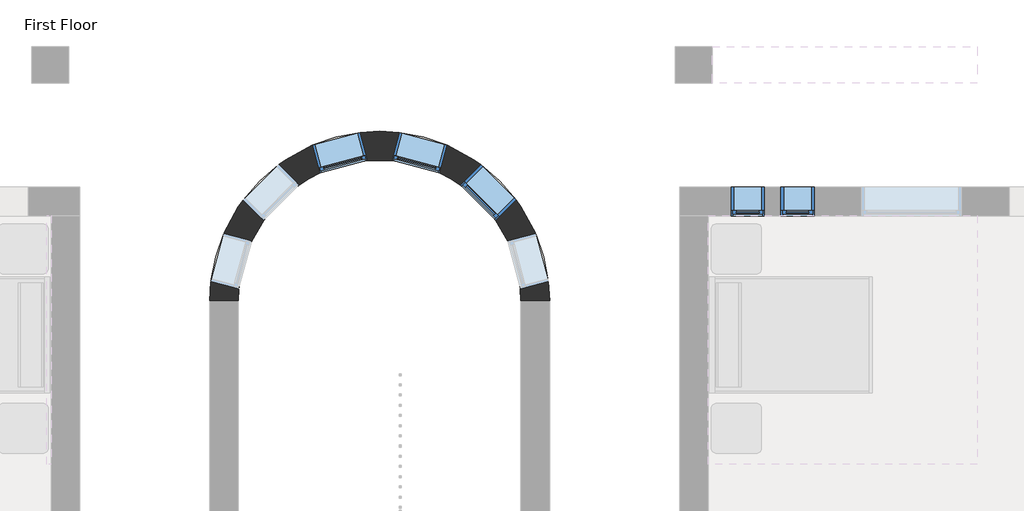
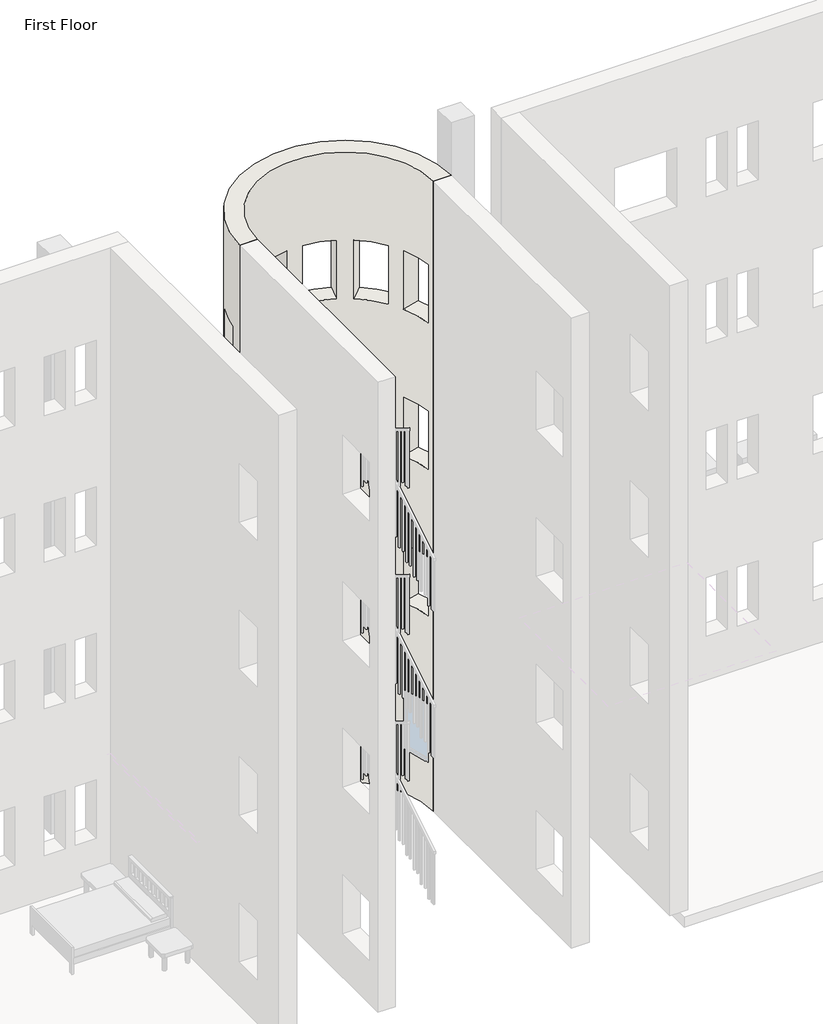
# One storey, part 15 of 23: 5 windows, 1 wall.
"""IFC4 building model written with IfcOpenShell, lengths in millimetres."""

from ifc_helpers import new_model, si_unit, frame, origin, place, context, project, spatial, polyline, circle_curve, transform, mapped, element, save
from ifc_brep_helpers import plane_surface, cylinder_surface, revolved_surface, advanced_brep
from components import m_fixed_0406_x_1220mm_57fee329, m_fixed_0610_x_1220mm_2c28ef1d, m_fixed_0610_x_1220mm_1ea27827

model = new_model("IFC4")

# Units and contexts
model_context = context("Model", 3, world=origin())
ifc_project = project(units=[si_unit("LENGTHUNIT", "METRE", prefix="MILLI")], contexts=[model_context])

# Site, building, storey
site = spatial("IfcSite", under=ifc_project)
building = spatial("IfcBuilding", under=site)
storey = spatial("IfcBuildingStorey", under=building, Name="First Floor", Elevation=0.0)

# Wall
placement = place(None, origin())
element("IfcWall", 1, ObjectType="Exterior - Brick on Mtl. Stud", at=placement, inside=storey, context=model_context, shape_type="AdvancedBrep", body=[
    advanced_brep(
    [(-16877.0916203, 1362.1188386, 13107.0), (-21037.0916203, 1362.1188386, 13107.0), (-20687.0916203, 1362.1188386, 13107.0), (-17227.0916203, 1362.1188386, 13107.0), (-21037.0916203, 1362.1188386, 0.0), (-16877.0916203, 1362.1188386, 0.0), (-17227.0916203, 1362.1188386, 0.0), (-20687.0916203, 1362.1188386, 0.0), (-20865.560337, 2189.250725, 915.0), (-20865.560337, 2189.250725, 2135.0), (-21023.4399545, 1600.035971, 2135.0), (-21023.4399545, 1600.035971, 915.0), (-19195.0087527, 3428.4671728, 915.0), (-19195.0087527, 3428.4671728, 2135.0), (-19784.2235068, 3270.5875553, 2135.0), (-19784.2235068, 3270.5875553, 915.0), (-20196.3080681, 3032.6704229, 915.0), (-20196.3080681, 3032.6704229, 2135.0), (-20627.6432046, 2601.3352863, 2135.0), (-20627.6432046, 2601.3352863, 915.0), (-17717.8751726, 3032.6704229, 2135.0), (-17717.8751726, 3032.6704229, 915.0), (-17286.5400361, 2601.3352863, 915.0), (-17286.5400361, 2601.3352863, 2135.0), (-18719.1744879, 3428.4671728, 2135.0), (-18719.1744879, 3428.4671728, 915.0), (-18129.9597339, 3270.5875553, 915.0), (-18129.9597339, 3270.5875553, 2135.0), (-17048.6229037, 2189.250725, 2135.0), (-17048.6229037, 2189.250725, 915.0), (-16890.7432862, 1600.035971, 915.0), (-16890.7432862, 1600.035971, 2135.0), (-17717.8751726, 3032.6704229, 11279.0), (-17717.8751726, 3032.6704229, 10059.0), (-17286.5400361, 2601.3352863, 10059.0), (-17286.5400361, 2601.3352863, 11279.0), (-18719.1744879, 3428.4671728, 11279.0), (-18719.1744879, 3428.4671728, 10059.0), (-18129.9597339, 3270.5875553, 10059.0), (-18129.9597339, 3270.5875553, 11279.0), (-17048.6229037, 2189.250725, 11279.0), (-17048.6229037, 2189.250725, 10059.0), (-16890.7432862, 1600.035971, 10059.0), (-16890.7432862, 1600.035971, 11279.0), (-20196.3080681, 3032.6704229, 10059.0), (-20196.3080681, 3032.6704229, 11279.0), (-20627.6432046, 2601.3352863, 11279.0), (-20627.6432046, 2601.3352863, 10059.0), (-19195.0087527, 3428.4671728, 10059.0), (-19195.0087527, 3428.4671728, 11279.0), (-19784.2235068, 3270.5875553, 11279.0), (-19784.2235068, 3270.5875553, 10059.0), (-20865.560337, 2189.250725, 10059.0), (-20865.560337, 2189.250725, 11279.0), (-21023.4399545, 1600.035971, 11279.0), (-21023.4399545, 1600.035971, 10059.0), (-17717.8751726, 3032.6704229, 5183.0), (-17717.8751726, 3032.6704229, 3963.0), (-17286.5400361, 2601.3352863, 3963.0), (-17286.5400361, 2601.3352863, 5183.0), (-18719.1744879, 3428.4671728, 5183.0), (-18719.1744879, 3428.4671728, 3963.0), (-18129.9597339, 3270.5875553, 3963.0), (-18129.9597339, 3270.5875553, 5183.0), (-17048.6229037, 2189.250725, 5183.0), (-17048.6229037, 2189.250725, 3963.0), (-16890.7432862, 1600.035971, 3963.0), (-16890.7432862, 1600.035971, 5183.0), (-20196.3080681, 3032.6704229, 3963.0), (-20196.3080681, 3032.6704229, 5183.0), (-20627.6432046, 2601.3352863, 5183.0), (-20627.6432046, 2601.3352863, 3963.0), (-19195.0087527, 3428.4671728, 3963.0), (-19195.0087527, 3428.4671728, 5183.0), (-19784.2235068, 3270.5875553, 5183.0), (-19784.2235068, 3270.5875553, 3963.0), (-20865.560337, 2189.250725, 3963.0), (-20865.560337, 2189.250725, 5183.0), (-21023.4399545, 1600.035971, 5183.0), (-21023.4399545, 1600.035971, 3963.0), (-17717.8751726, 3032.6704229, 8231.0), (-17717.8751726, 3032.6704229, 7011.0), (-17286.5400361, 2601.3352863, 7011.0), (-17286.5400361, 2601.3352863, 8231.0), (-18719.1744879, 3428.4671728, 8231.0), (-18719.1744879, 3428.4671728, 7011.0), (-18129.9597339, 3270.5875553, 7011.0), (-18129.9597339, 3270.5875553, 8231.0), (-17048.6229037, 2189.250725, 8231.0), (-17048.6229037, 2189.250725, 7011.0), (-16890.7432862, 1600.035971, 7011.0), (-16890.7432862, 1600.035971, 8231.0), (-20196.3080681, 3032.6704229, 7011.0), (-20196.3080681, 3032.6704229, 8231.0), (-20627.6432046, 2601.3352863, 8231.0), (-20627.6432046, 2601.3352863, 7011.0), (-19195.0087527, 3428.4671728, 7011.0), (-19195.0087527, 3428.4671728, 8231.0), (-19784.2235068, 3270.5875553, 8231.0), (-19784.2235068, 3270.5875553, 7011.0), (-20865.560337, 2189.250725, 7011.0), (-20865.560337, 2189.250725, 8231.0), (-21023.4399545, 1600.035971, 8231.0), (-21023.4399545, 1600.035971, 7011.0), (-20523.0287702, 2097.4696683, 915.0), (-20680.9083877, 1508.2549143, 915.0), (-20680.9083877, 1508.2549143, 2135.0), (-20523.0287702, 2097.4696683, 2135.0), (-19103.227696, 3085.935606, 2135.0), (-19103.227696, 3085.935606, 915.0), (-19692.44245, 2928.0559884, 915.0), (-19692.44245, 2928.0559884, 2135.0), (-19945.5575579, 2781.9199128, 2135.0), (-19945.5575579, 2781.9199128, 915.0), (-20376.8926945, 2350.5847762, 915.0), (-20376.8926945, 2350.5847762, 2135.0), (-17968.6256827, 2781.9199128, 915.0), (-17968.6256827, 2781.9199128, 2135.0), (-17537.2905462, 2350.5847762, 2135.0), (-17537.2905462, 2350.5847762, 915.0), (-18810.9555446, 3085.935606, 915.0), (-18810.9555446, 3085.935606, 2135.0), (-18221.7407906, 2928.0559884, 2135.0), (-18221.7407906, 2928.0559884, 915.0), (-17391.1544705, 2097.4696683, 915.0), (-17391.1544705, 2097.4696683, 2135.0), (-17233.274853, 1508.2549143, 2135.0), (-17233.274853, 1508.2549143, 915.0), (-17968.6256827, 2781.9199128, 10059.0), (-17968.6256827, 2781.9199128, 11279.0), (-17537.2905462, 2350.5847762, 11279.0), (-17537.2905462, 2350.5847762, 10059.0), (-18810.9555446, 3085.935606, 10059.0), (-18810.9555446, 3085.935606, 11279.0), (-18221.7407906, 2928.0559884, 11279.0), (-18221.7407906, 2928.0559884, 10059.0), (-17391.1544705, 2097.4696683, 10059.0), (-17391.1544705, 2097.4696683, 11279.0), (-17233.274853, 1508.2549143, 11279.0), (-17233.274853, 1508.2549143, 10059.0), (-19945.5575579, 2781.9199128, 11279.0), (-19945.5575579, 2781.9199128, 10059.0), (-20376.8926945, 2350.5847762, 10059.0), (-20376.8926945, 2350.5847762, 11279.0), (-19103.227696, 3085.935606, 11279.0), (-19103.227696, 3085.935606, 10059.0), (-19692.44245, 2928.0559884, 10059.0), (-19692.44245, 2928.0559884, 11279.0), (-20523.0287702, 2097.4696683, 11279.0), (-20523.0287702, 2097.4696683, 10059.0), (-20680.9083877, 1508.2549143, 10059.0), (-20680.9083877, 1508.2549143, 11279.0), (-17968.6256827, 2781.9199128, 3963.0), (-17968.6256827, 2781.9199128, 5183.0), (-17537.2905462, 2350.5847762, 5183.0), (-17537.2905462, 2350.5847762, 3963.0), (-18810.9555446, 3085.935606, 3963.0), (-18810.9555446, 3085.935606, 5183.0), (-18221.7407906, 2928.0559884, 5183.0), (-18221.7407906, 2928.0559884, 3963.0), (-17391.1544705, 2097.4696683, 3963.0), (-17391.1544705, 2097.4696683, 5183.0), (-17233.274853, 1508.2549143, 5183.0), (-17233.274853, 1508.2549143, 3963.0), (-19945.5575579, 2781.9199128, 5183.0), (-19945.5575579, 2781.9199128, 3963.0), (-20376.8926945, 2350.5847762, 3963.0), (-20376.8926945, 2350.5847762, 5183.0), (-19103.227696, 3085.935606, 5183.0), (-19103.227696, 3085.935606, 3963.0), (-19692.44245, 2928.0559884, 3963.0), (-19692.44245, 2928.0559884, 5183.0), (-20523.0287702, 2097.4696683, 5183.0), (-20523.0287702, 2097.4696683, 3963.0), (-20680.9083877, 1508.2549143, 3963.0), (-20680.9083877, 1508.2549143, 5183.0), (-17968.6256827, 2781.9199128, 7011.0), (-17968.6256827, 2781.9199128, 8231.0), (-17537.2905462, 2350.5847762, 8231.0), (-17537.2905462, 2350.5847762, 7011.0), (-18810.9555446, 3085.935606, 7011.0), (-18810.9555446, 3085.935606, 8231.0), (-18221.7407906, 2928.0559884, 8231.0), (-18221.7407906, 2928.0559884, 7011.0), (-17391.1544705, 2097.4696683, 7011.0), (-17391.1544705, 2097.4696683, 8231.0), (-17233.274853, 1508.2549143, 8231.0), (-17233.274853, 1508.2549143, 7011.0), (-19945.5575579, 2781.9199128, 8231.0), (-19945.5575579, 2781.9199128, 7011.0), (-20376.8926945, 2350.5847762, 7011.0), (-20376.8926945, 2350.5847762, 8231.0), (-19103.227696, 3085.935606, 8231.0), (-19103.227696, 3085.935606, 7011.0), (-19692.44245, 2928.0559884, 7011.0), (-19692.44245, 2928.0559884, 8231.0), (-20523.0287702, 2097.4696683, 8231.0), (-20523.0287702, 2097.4696683, 7011.0), (-20680.9083877, 1508.2549143, 7011.0), (-20680.9083877, 1508.2549143, 8231.0)],
    [
        (0, 1, circle_curve(frame((-18957.0916203, 1362.1188386, 13107.0), z_axis=(0.0, 0.0, 1.0), x_axis=(1.0, 0.0, 0.0)), 2080.0)),
        (1, 2),
        (2, 3, circle_curve(frame((-18957.0916203, 1362.1188386, 13107.0), z_axis=(0.0, 0.0, -1.0), x_axis=(1.0, 0.0, 0.0)), 1730.0)),
        (3, 0),
        (4, 5, circle_curve(frame((-18957.0916203, 1362.1188386, 0.0), z_axis=(0.0, 0.0, -1.0), x_axis=(1.0, 0.0, 0.0)), 2080.0)),
        (5, 6),
        (6, 7, circle_curve(frame((-18957.0916203, 1362.1188386, 0.0), z_axis=(0.0, 0.0, 1.0), x_axis=(1.0, 0.0, 0.0)), 1730.0)),
        (7, 4),
        (0, 5),
        (4, 1),
        (8, 9),
        (9, 10, circle_curve(frame((-18957.0916203, 1362.1188386, 2135.0), z_axis=(0.0, 0.0, 1.0), x_axis=(1.0, 0.0, 0.0)), 2080.0)),
        (10, 11),
        (11, 8, circle_curve(frame((-18957.0916203, 1362.1188386, 915.0), z_axis=(0.0, 0.0, -1.0), x_axis=(1.0, 0.0, 0.0)), 2080.0)),
        (12, 13),
        (13, 14, circle_curve(frame((-18957.0916203, 1362.1188386, 2135.0), z_axis=(0.0, 0.0, 1.0), x_axis=(1.0, 0.0, 0.0)), 2080.0)),
        (14, 15),
        (15, 12, circle_curve(frame((-18957.0916203, 1362.1188386, 915.0), z_axis=(0.0, 0.0, -1.0), x_axis=(1.0, 0.0, 0.0)), 2080.0)),
        (16, 17),
        (17, 18, circle_curve(frame((-18957.0916203, 1362.1188386, 2135.0), z_axis=(0.0, 0.0, 1.0), x_axis=(1.0, 0.0, 0.0)), 2080.0)),
        (18, 19),
        (19, 16, circle_curve(frame((-18957.0916203, 1362.1188386, 915.0), z_axis=(0.0, 0.0, -1.0), x_axis=(1.0, 0.0, 0.0)), 2080.0)),
        (20, 21),
        (21, 22, circle_curve(frame((-18957.0916203, 1362.1188386, 915.0), z_axis=(0.0, 0.0, -1.0), x_axis=(1.0, 0.0, 0.0)), 2080.0)),
        (22, 23),
        (23, 20, circle_curve(frame((-18957.0916203, 1362.1188386, 2135.0), z_axis=(0.0, 0.0, 1.0), x_axis=(1.0, 0.0, 0.0)), 2080.0)),
        (24, 25),
        (25, 26, circle_curve(frame((-18957.0916203, 1362.1188386, 915.0), z_axis=(0.0, 0.0, -1.0), x_axis=(1.0, 0.0, 0.0)), 2080.0)),
        (26, 27),
        (27, 24, circle_curve(frame((-18957.0916203, 1362.1188386, 2135.0), z_axis=(0.0, 0.0, 1.0), x_axis=(1.0, 0.0, 0.0)), 2080.0)),
        (28, 29),
        (29, 30, circle_curve(frame((-18957.0916203, 1362.1188386, 915.0), z_axis=(0.0, 0.0, -1.0), x_axis=(1.0, 0.0, 0.0)), 2080.0)),
        (30, 31),
        (31, 28, circle_curve(frame((-18957.0916203, 1362.1188386, 2135.0), z_axis=(0.0, 0.0, 1.0), x_axis=(1.0, 0.0, 0.0)), 2080.0)),
        (32, 33),
        (33, 34, circle_curve(frame((-18957.0916203, 1362.1188386, 10059.0), z_axis=(0.0, 0.0, -1.0), x_axis=(1.0, 0.0, 0.0)), 2080.0)),
        (34, 35),
        (35, 32, circle_curve(frame((-18957.0916203, 1362.1188386, 11279.0), z_axis=(0.0, 0.0, 1.0), x_axis=(1.0, 0.0, 0.0)), 2080.0)),
        (36, 37),
        (37, 38, circle_curve(frame((-18957.0916203, 1362.1188386, 10059.0), z_axis=(0.0, 0.0, -1.0), x_axis=(1.0, 0.0, 0.0)), 2080.0)),
        (38, 39),
        (39, 36, circle_curve(frame((-18957.0916203, 1362.1188386, 11279.0), z_axis=(0.0, 0.0, 1.0), x_axis=(1.0, 0.0, 0.0)), 2080.0)),
        (40, 41),
        (41, 42, circle_curve(frame((-18957.0916203, 1362.1188386, 10059.0), z_axis=(0.0, 0.0, -1.0), x_axis=(1.0, 0.0, 0.0)), 2080.0)),
        (42, 43),
        (43, 40, circle_curve(frame((-18957.0916203, 1362.1188386, 11279.0), z_axis=(0.0, 0.0, 1.0), x_axis=(1.0, 0.0, 0.0)), 2080.0)),
        (44, 45),
        (45, 46, circle_curve(frame((-18957.0916203, 1362.1188386, 11279.0), z_axis=(0.0, 0.0, 1.0), x_axis=(1.0, 0.0, 0.0)), 2080.0)),
        (46, 47),
        (47, 44, circle_curve(frame((-18957.0916203, 1362.1188386, 10059.0), z_axis=(0.0, 0.0, -1.0), x_axis=(1.0, 0.0, 0.0)), 2080.0)),
        (48, 49),
        (49, 50, circle_curve(frame((-18957.0916203, 1362.1188386, 11279.0), z_axis=(0.0, 0.0, 1.0), x_axis=(1.0, 0.0, 0.0)), 2080.0)),
        (50, 51),
        (51, 48, circle_curve(frame((-18957.0916203, 1362.1188386, 10059.0), z_axis=(0.0, 0.0, -1.0), x_axis=(1.0, 0.0, 0.0)), 2080.0)),
        (52, 53),
        (53, 54, circle_curve(frame((-18957.0916203, 1362.1188386, 11279.0), z_axis=(0.0, 0.0, 1.0), x_axis=(1.0, 0.0, 0.0)), 2080.0)),
        (54, 55),
        (55, 52, circle_curve(frame((-18957.0916203, 1362.1188386, 10059.0), z_axis=(0.0, 0.0, -1.0), x_axis=(1.0, 0.0, 0.0)), 2080.0)),
        (56, 57),
        (57, 58, circle_curve(frame((-18957.0916203, 1362.1188386, 3963.0), z_axis=(0.0, 0.0, -1.0), x_axis=(1.0, 0.0, 0.0)), 2080.0)),
        (58, 59),
        (59, 56, circle_curve(frame((-18957.0916203, 1362.1188386, 5183.0), z_axis=(0.0, 0.0, 1.0), x_axis=(1.0, 0.0, 0.0)), 2080.0)),
        (60, 61),
        (61, 62, circle_curve(frame((-18957.0916203, 1362.1188386, 3963.0), z_axis=(0.0, 0.0, -1.0), x_axis=(1.0, 0.0, 0.0)), 2080.0)),
        (62, 63),
        (63, 60, circle_curve(frame((-18957.0916203, 1362.1188386, 5183.0), z_axis=(0.0, 0.0, 1.0), x_axis=(1.0, 0.0, 0.0)), 2080.0)),
        (64, 65),
        (65, 66, circle_curve(frame((-18957.0916203, 1362.1188386, 3963.0), z_axis=(0.0, 0.0, -1.0), x_axis=(1.0, 0.0, 0.0)), 2080.0)),
        (66, 67),
        (67, 64, circle_curve(frame((-18957.0916203, 1362.1188386, 5183.0), z_axis=(0.0, 0.0, 1.0), x_axis=(1.0, 0.0, 0.0)), 2080.0)),
        (68, 69),
        (69, 70, circle_curve(frame((-18957.0916203, 1362.1188386, 5183.0), z_axis=(0.0, 0.0, 1.0), x_axis=(1.0, 0.0, 0.0)), 2080.0)),
        (70, 71),
        (71, 68, circle_curve(frame((-18957.0916203, 1362.1188386, 3963.0), z_axis=(0.0, 0.0, -1.0), x_axis=(1.0, 0.0, 0.0)), 2080.0)),
        (72, 73),
        (73, 74, circle_curve(frame((-18957.0916203, 1362.1188386, 5183.0), z_axis=(0.0, 0.0, 1.0), x_axis=(1.0, 0.0, 0.0)), 2080.0)),
        (74, 75),
        (75, 72, circle_curve(frame((-18957.0916203, 1362.1188386, 3963.0), z_axis=(0.0, 0.0, -1.0), x_axis=(1.0, 0.0, 0.0)), 2080.0)),
        (76, 77),
        (77, 78, circle_curve(frame((-18957.0916203, 1362.1188386, 5183.0), z_axis=(0.0, 0.0, 1.0), x_axis=(1.0, 0.0, 0.0)), 2080.0)),
        (78, 79),
        (79, 76, circle_curve(frame((-18957.0916203, 1362.1188386, 3963.0), z_axis=(0.0, 0.0, -1.0), x_axis=(1.0, 0.0, 0.0)), 2080.0)),
        (80, 81),
        (81, 82, circle_curve(frame((-18957.0916203, 1362.1188386, 7011.0), z_axis=(0.0, 0.0, -1.0), x_axis=(1.0, 0.0, 0.0)), 2080.0)),
        (82, 83),
        (83, 80, circle_curve(frame((-18957.0916203, 1362.1188386, 8231.0), z_axis=(0.0, 0.0, 1.0), x_axis=(1.0, 0.0, 0.0)), 2080.0)),
        (84, 85),
        (85, 86, circle_curve(frame((-18957.0916203, 1362.1188386, 7011.0), z_axis=(0.0, 0.0, -1.0), x_axis=(1.0, 0.0, 0.0)), 2080.0)),
        (86, 87),
        (87, 84, circle_curve(frame((-18957.0916203, 1362.1188386, 8231.0), z_axis=(0.0, 0.0, 1.0), x_axis=(1.0, 0.0, 0.0)), 2080.0)),
        (88, 89),
        (89, 90, circle_curve(frame((-18957.0916203, 1362.1188386, 7011.0), z_axis=(0.0, 0.0, -1.0), x_axis=(1.0, 0.0, 0.0)), 2080.0)),
        (90, 91),
        (91, 88, circle_curve(frame((-18957.0916203, 1362.1188386, 8231.0), z_axis=(0.0, 0.0, 1.0), x_axis=(1.0, 0.0, 0.0)), 2080.0)),
        (92, 93),
        (93, 94, circle_curve(frame((-18957.0916203, 1362.1188386, 8231.0), z_axis=(0.0, 0.0, 1.0), x_axis=(1.0, 0.0, 0.0)), 2080.0)),
        (94, 95),
        (95, 92, circle_curve(frame((-18957.0916203, 1362.1188386, 7011.0), z_axis=(0.0, 0.0, -1.0), x_axis=(1.0, 0.0, 0.0)), 2080.0)),
        (96, 97),
        (97, 98, circle_curve(frame((-18957.0916203, 1362.1188386, 8231.0), z_axis=(0.0, 0.0, 1.0), x_axis=(1.0, 0.0, 0.0)), 2080.0)),
        (98, 99),
        (99, 96, circle_curve(frame((-18957.0916203, 1362.1188386, 7011.0), z_axis=(0.0, 0.0, -1.0), x_axis=(1.0, 0.0, 0.0)), 2080.0)),
        (100, 101),
        (101, 102, circle_curve(frame((-18957.0916203, 1362.1188386, 8231.0), z_axis=(0.0, 0.0, 1.0), x_axis=(1.0, 0.0, 0.0)), 2080.0)),
        (102, 103),
        (103, 100, circle_curve(frame((-18957.0916203, 1362.1188386, 7011.0), z_axis=(0.0, 0.0, -1.0), x_axis=(1.0, 0.0, 0.0)), 2080.0)),
        (7, 2),
        (6, 3),
        (104, 105, circle_curve(frame((-18957.0916203, 1362.1188386, 915.0), z_axis=(0.0, 0.0, 1.0), x_axis=(1.0, 0.0, 0.0)), 1730.0)),
        (105, 106),
        (106, 107, circle_curve(frame((-18957.0916203, 1362.1188386, 2135.0), z_axis=(0.0, 0.0, -1.0), x_axis=(1.0, 0.0, 0.0)), 1730.0)),
        (107, 104),
        (108, 109),
        (109, 110, circle_curve(frame((-18957.0916203, 1362.1188386, 915.0), z_axis=(0.0, 0.0, 1.0), x_axis=(1.0, 0.0, 0.0)), 1730.0)),
        (110, 111),
        (111, 108, circle_curve(frame((-18957.0916203, 1362.1188386, 2135.0), z_axis=(0.0, 0.0, -1.0), x_axis=(1.0, 0.0, 0.0)), 1730.0)),
        (112, 113),
        (113, 114, circle_curve(frame((-18957.0916203, 1362.1188386, 915.0), z_axis=(0.0, 0.0, 1.0), x_axis=(1.0, 0.0, 0.0)), 1730.0)),
        (114, 115),
        (115, 112, circle_curve(frame((-18957.0916203, 1362.1188386, 2135.0), z_axis=(0.0, 0.0, -1.0), x_axis=(1.0, 0.0, 0.0)), 1730.0)),
        (116, 117),
        (117, 118, circle_curve(frame((-18957.0916203, 1362.1188386, 2135.0), z_axis=(0.0, 0.0, -1.0), x_axis=(1.0, 0.0, 0.0)), 1730.0)),
        (118, 119),
        (119, 116, circle_curve(frame((-18957.0916203, 1362.1188386, 915.0), z_axis=(0.0, 0.0, 1.0), x_axis=(1.0, 0.0, 0.0)), 1730.0)),
        (120, 121),
        (121, 122, circle_curve(frame((-18957.0916203, 1362.1188386, 2135.0), z_axis=(0.0, 0.0, -1.0), x_axis=(1.0, 0.0, 0.0)), 1730.0)),
        (122, 123),
        (123, 120, circle_curve(frame((-18957.0916203, 1362.1188386, 915.0), z_axis=(0.0, 0.0, 1.0), x_axis=(1.0, 0.0, 0.0)), 1730.0)),
        (124, 125),
        (125, 126, circle_curve(frame((-18957.0916203, 1362.1188386, 2135.0), z_axis=(0.0, 0.0, -1.0), x_axis=(1.0, 0.0, 0.0)), 1730.0)),
        (126, 127),
        (127, 124, circle_curve(frame((-18957.0916203, 1362.1188386, 915.0), z_axis=(0.0, 0.0, 1.0), x_axis=(1.0, 0.0, 0.0)), 1730.0)),
        (128, 129),
        (129, 130, circle_curve(frame((-18957.0916203, 1362.1188386, 11279.0), z_axis=(0.0, 0.0, -1.0), x_axis=(1.0, 0.0, 0.0)), 1730.0)),
        (130, 131),
        (131, 128, circle_curve(frame((-18957.0916203, 1362.1188386, 10059.0), z_axis=(0.0, 0.0, 1.0), x_axis=(1.0, 0.0, 0.0)), 1730.0)),
        (132, 133),
        (133, 134, circle_curve(frame((-18957.0916203, 1362.1188386, 11279.0), z_axis=(0.0, 0.0, -1.0), x_axis=(1.0, 0.0, 0.0)), 1730.0)),
        (134, 135),
        (135, 132, circle_curve(frame((-18957.0916203, 1362.1188386, 10059.0), z_axis=(0.0, 0.0, 1.0), x_axis=(1.0, 0.0, 0.0)), 1730.0)),
        (136, 137),
        (137, 138, circle_curve(frame((-18957.0916203, 1362.1188386, 11279.0), z_axis=(0.0, 0.0, -1.0), x_axis=(1.0, 0.0, 0.0)), 1730.0)),
        (138, 139),
        (139, 136, circle_curve(frame((-18957.0916203, 1362.1188386, 10059.0), z_axis=(0.0, 0.0, 1.0), x_axis=(1.0, 0.0, 0.0)), 1730.0)),
        (140, 141),
        (141, 142, circle_curve(frame((-18957.0916203, 1362.1188386, 10059.0), z_axis=(0.0, 0.0, 1.0), x_axis=(1.0, 0.0, 0.0)), 1730.0)),
        (142, 143),
        (143, 140, circle_curve(frame((-18957.0916203, 1362.1188386, 11279.0), z_axis=(0.0, 0.0, -1.0), x_axis=(1.0, 0.0, 0.0)), 1730.0)),
        (144, 145),
        (145, 146, circle_curve(frame((-18957.0916203, 1362.1188386, 10059.0), z_axis=(0.0, 0.0, 1.0), x_axis=(1.0, 0.0, 0.0)), 1730.0)),
        (146, 147),
        (147, 144, circle_curve(frame((-18957.0916203, 1362.1188386, 11279.0), z_axis=(0.0, 0.0, -1.0), x_axis=(1.0, 0.0, 0.0)), 1730.0)),
        (148, 149),
        (149, 150, circle_curve(frame((-18957.0916203, 1362.1188386, 10059.0), z_axis=(0.0, 0.0, 1.0), x_axis=(1.0, 0.0, 0.0)), 1730.0)),
        (150, 151),
        (151, 148, circle_curve(frame((-18957.0916203, 1362.1188386, 11279.0), z_axis=(0.0, 0.0, -1.0), x_axis=(1.0, 0.0, 0.0)), 1730.0)),
        (152, 153),
        (153, 154, circle_curve(frame((-18957.0916203, 1362.1188386, 5183.0), z_axis=(0.0, 0.0, -1.0), x_axis=(1.0, 0.0, 0.0)), 1730.0)),
        (154, 155),
        (155, 152, circle_curve(frame((-18957.0916203, 1362.1188386, 3963.0), z_axis=(0.0, 0.0, 1.0), x_axis=(1.0, 0.0, 0.0)), 1730.0)),
        (156, 157),
        (157, 158, circle_curve(frame((-18957.0916203, 1362.1188386, 5183.0), z_axis=(0.0, 0.0, -1.0), x_axis=(1.0, 0.0, 0.0)), 1730.0)),
        (158, 159),
        (159, 156, circle_curve(frame((-18957.0916203, 1362.1188386, 3963.0), z_axis=(0.0, 0.0, 1.0), x_axis=(1.0, 0.0, 0.0)), 1730.0)),
        (160, 161),
        (161, 162, circle_curve(frame((-18957.0916203, 1362.1188386, 5183.0), z_axis=(0.0, 0.0, -1.0), x_axis=(1.0, 0.0, 0.0)), 1730.0)),
        (162, 163),
        (163, 160, circle_curve(frame((-18957.0916203, 1362.1188386, 3963.0), z_axis=(0.0, 0.0, 1.0), x_axis=(1.0, 0.0, 0.0)), 1730.0)),
        (164, 165),
        (165, 166, circle_curve(frame((-18957.0916203, 1362.1188386, 3963.0), z_axis=(0.0, 0.0, 1.0), x_axis=(1.0, 0.0, 0.0)), 1730.0)),
        (166, 167),
        (167, 164, circle_curve(frame((-18957.0916203, 1362.1188386, 5183.0), z_axis=(0.0, 0.0, -1.0), x_axis=(1.0, 0.0, 0.0)), 1730.0)),
        (168, 169),
        (169, 170, circle_curve(frame((-18957.0916203, 1362.1188386, 3963.0), z_axis=(0.0, 0.0, 1.0), x_axis=(1.0, 0.0, 0.0)), 1730.0)),
        (170, 171),
        (171, 168, circle_curve(frame((-18957.0916203, 1362.1188386, 5183.0), z_axis=(0.0, 0.0, -1.0), x_axis=(1.0, 0.0, 0.0)), 1730.0)),
        (172, 173),
        (173, 174, circle_curve(frame((-18957.0916203, 1362.1188386, 3963.0), z_axis=(0.0, 0.0, 1.0), x_axis=(1.0, 0.0, 0.0)), 1730.0)),
        (174, 175),
        (175, 172, circle_curve(frame((-18957.0916203, 1362.1188386, 5183.0), z_axis=(0.0, 0.0, -1.0), x_axis=(1.0, 0.0, 0.0)), 1730.0)),
        (176, 177),
        (177, 178, circle_curve(frame((-18957.0916203, 1362.1188386, 8231.0), z_axis=(0.0, 0.0, -1.0), x_axis=(1.0, 0.0, 0.0)), 1730.0)),
        (178, 179),
        (179, 176, circle_curve(frame((-18957.0916203, 1362.1188386, 7011.0), z_axis=(0.0, 0.0, 1.0), x_axis=(1.0, 0.0, 0.0)), 1730.0)),
        (180, 181),
        (181, 182, circle_curve(frame((-18957.0916203, 1362.1188386, 8231.0), z_axis=(0.0, 0.0, -1.0), x_axis=(1.0, 0.0, 0.0)), 1730.0)),
        (182, 183),
        (183, 180, circle_curve(frame((-18957.0916203, 1362.1188386, 7011.0), z_axis=(0.0, 0.0, 1.0), x_axis=(1.0, 0.0, 0.0)), 1730.0)),
        (184, 185),
        (185, 186, circle_curve(frame((-18957.0916203, 1362.1188386, 8231.0), z_axis=(0.0, 0.0, -1.0), x_axis=(1.0, 0.0, 0.0)), 1730.0)),
        (186, 187),
        (187, 184, circle_curve(frame((-18957.0916203, 1362.1188386, 7011.0), z_axis=(0.0, 0.0, 1.0), x_axis=(1.0, 0.0, 0.0)), 1730.0)),
        (188, 189),
        (189, 190, circle_curve(frame((-18957.0916203, 1362.1188386, 7011.0), z_axis=(0.0, 0.0, 1.0), x_axis=(1.0, 0.0, 0.0)), 1730.0)),
        (190, 191),
        (191, 188, circle_curve(frame((-18957.0916203, 1362.1188386, 8231.0), z_axis=(0.0, 0.0, -1.0), x_axis=(1.0, 0.0, 0.0)), 1730.0)),
        (192, 193),
        (193, 194, circle_curve(frame((-18957.0916203, 1362.1188386, 7011.0), z_axis=(0.0, 0.0, 1.0), x_axis=(1.0, 0.0, 0.0)), 1730.0)),
        (194, 195),
        (195, 192, circle_curve(frame((-18957.0916203, 1362.1188386, 8231.0), z_axis=(0.0, 0.0, -1.0), x_axis=(1.0, 0.0, 0.0)), 1730.0)),
        (196, 197),
        (197, 198, circle_curve(frame((-18957.0916203, 1362.1188386, 7011.0), z_axis=(0.0, 0.0, 1.0), x_axis=(1.0, 0.0, 0.0)), 1730.0)),
        (198, 199),
        (199, 196, circle_curve(frame((-18957.0916203, 1362.1188386, 8231.0), z_axis=(0.0, 0.0, -1.0), x_axis=(1.0, 0.0, 0.0)), 1730.0)),
        (8, 104),
        (107, 9),
        (106, 10),
        (105, 11),
        (12, 109),
        (108, 13),
        (111, 14),
        (110, 15),
        (16, 113),
        (112, 17),
        (115, 18),
        (114, 19),
        (116, 21),
        (20, 117),
        (23, 118),
        (22, 119),
        (120, 25),
        (24, 121),
        (27, 122),
        (26, 123),
        (124, 29),
        (28, 125),
        (31, 126),
        (30, 127),
        (128, 33),
        (32, 129),
        (35, 130),
        (34, 131),
        (132, 37),
        (36, 133),
        (39, 134),
        (38, 135),
        (136, 41),
        (40, 137),
        (43, 138),
        (42, 139),
        (44, 141),
        (140, 45),
        (143, 46),
        (142, 47),
        (48, 145),
        (144, 49),
        (147, 50),
        (146, 51),
        (52, 149),
        (148, 53),
        (151, 54),
        (150, 55),
        (152, 57),
        (56, 153),
        (59, 154),
        (58, 155),
        (156, 61),
        (60, 157),
        (63, 158),
        (62, 159),
        (160, 65),
        (64, 161),
        (67, 162),
        (66, 163),
        (68, 165),
        (164, 69),
        (167, 70),
        (166, 71),
        (72, 169),
        (168, 73),
        (171, 74),
        (170, 75),
        (76, 173),
        (172, 77),
        (175, 78),
        (174, 79),
        (176, 81),
        (80, 177),
        (83, 178),
        (82, 179),
        (180, 85),
        (84, 181),
        (87, 182),
        (86, 183),
        (184, 89),
        (88, 185),
        (91, 186),
        (90, 187),
        (92, 189),
        (188, 93),
        (191, 94),
        (190, 95),
        (96, 193),
        (192, 97),
        (195, 98),
        (194, 99),
        (100, 197),
        (196, 101),
        (199, 102),
        (198, 103),
    ],
    [
        plane_surface(frame((-16877.0916203, 1362.1188386, 13107.0), z_axis=(0.0, 0.0, 1.0), x_axis=(0.0, 1.0, 0.0))),
        plane_surface(frame((-16877.0916203, 1362.1188386, 0.0), z_axis=(0.0, 0.0, -1.0), x_axis=(0.0, -1.0, 0.0))),
        cylinder_surface(frame((-18957.0916203, 1362.1188386, 0.0), z_axis=(0.0, 0.0, 1.0), x_axis=(1.0, 0.0, 0.0)), 2080.0),
        plane_surface(frame((-21037.0916203, 1362.1188386, 13107.0), z_axis=(0.0, -1.0, 0.0), x_axis=(0.0, 0.0, -1.0))),
        revolved_surface(polyline([(-17227.0916203, 1362.1188386, 0.0), (-17227.0916203, 1362.1188386, 13107.0)]), (-18957.0916203, 1362.1188386, 0.0), (0.0, 0.0, -1.0)),
        plane_surface(frame((-17227.0916203, 1362.1188386, 13107.0), z_axis=(0.0, -1.0, 0.0), x_axis=(0.0, 0.0, -1.0))),
        plane_surface(frame((-20865.560337, 2189.250725, 915.0), z_axis=(-0.25881904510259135, -0.9659258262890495, 0.0), x_axis=(0.9659258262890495, -0.25881904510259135, 0.0))),
        plane_surface(frame((-20865.560337, 2189.250725, 2135.0), z_axis=(0.0, 0.0, -1.0000000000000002), x_axis=(0.9659258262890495, -0.25881904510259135, 0.0))),
        plane_surface(frame((-21023.4399545, 1600.035971, 2135.0), z_axis=(0.258819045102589, 0.96592582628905, 0.0), x_axis=(0.96592582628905, -0.258819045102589, 0.0))),
        plane_surface(frame((-21023.4399545, 1600.035971, 915.0), z_axis=(0.0, 0.0, 1.0), x_axis=(0.96592582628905, -0.258819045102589, 0.0))),
        plane_surface(frame((-18800.568528, 1956.3962135, 915.0), z_axis=(-0.9659258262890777, -0.25881904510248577, 0.0), x_axis=(-0.25881904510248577, 0.9659258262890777, 0.0))),
        plane_surface(frame((-18800.568528, 1956.3962135, 2135.0), z_axis=(0.0, 0.0, -1.0000000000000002), x_axis=(-0.25881904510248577, 0.9659258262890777, 0.0))),
        plane_surface(frame((-19389.783282, 1798.516596, 2135.0), z_axis=(0.9659258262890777, 0.25881904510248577, 0.0), x_axis=(-0.25881904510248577, 0.9659258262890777, 0.0))),
        plane_surface(frame((-19389.783282, 1798.516596, 915.0), z_axis=(0.0, 0.0, 1.0000000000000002), x_axis=(-0.25881904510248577, 0.9659258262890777, 0.0))),
        plane_surface(frame((-20196.3080681, 3032.6704229, 915.0), z_axis=(-0.7071067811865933, -0.7071067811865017, 0.0), x_axis=(0.7071067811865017, -0.7071067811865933, 0.0))),
        plane_surface(frame((-20196.3080681, 3032.6704229, 2135.0), z_axis=(0.0, 0.0, -1.0), x_axis=(0.7071067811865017, -0.7071067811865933, 0.0))),
        plane_surface(frame((-20627.6432046, 2601.3352863, 2135.0), z_axis=(0.7071067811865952, 0.7071067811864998, 0.0), x_axis=(0.7071067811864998, -0.7071067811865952, 0.0))),
        plane_surface(frame((-20627.6432046, 2601.3352863, 915.0), z_axis=(0.0, 0.0, 1.0), x_axis=(0.7071067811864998, -0.7071067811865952, 0.0))),
        plane_surface(frame((-17968.6256827, 2781.9199128, 915.0), z_axis=(0.7071067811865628, -0.7071067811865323, 0.0), x_axis=(0.7071067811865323, 0.7071067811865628, 0.0))),
        plane_surface(frame((-17968.6256827, 2781.9199128, 2135.0), z_axis=(0.0, 0.0, -1.0000000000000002), x_axis=(0.7071067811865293, 0.7071067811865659, 0.0))),
        plane_surface(frame((-17537.2905462, 2350.5847762, 2135.0), z_axis=(-0.7071067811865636, 0.7071067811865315, 0.0), x_axis=(0.7071067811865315, 0.7071067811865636, 0.0))),
        plane_surface(frame((-17537.2905462, 2350.5847762, 915.0), z_axis=(0.0, 0.0, 1.0), x_axis=(0.7071067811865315, 0.7071067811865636, 0.0))),
        plane_surface(frame((-18810.9555446, 3085.935606, 915.0), z_axis=(0.9659258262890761, -0.2588190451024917, 0.0), x_axis=(0.2588190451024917, 0.9659258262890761, 0.0))),
        plane_surface(frame((-18810.9555446, 3085.935606, 2135.0), z_axis=(0.0, 0.0, -1.0), x_axis=(0.2588190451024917, 0.9659258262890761, 0.0))),
        plane_surface(frame((-18221.7407906, 2928.0559884, 2135.0), z_axis=(-0.9659258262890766, 0.2588190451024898, 0.0), x_axis=(0.2588190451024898, 0.9659258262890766, 0.0))),
        plane_surface(frame((-18221.7407906, 2928.0559884, 915.0), z_axis=(0.0, 0.0, 1.0000000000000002), x_axis=(0.2588190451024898, 0.9659258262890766, 0.0))),
        plane_surface(frame((-17391.1544705, 2097.4696683, 915.0), z_axis=(0.2588190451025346, -0.9659258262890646, 0.0), x_axis=(0.9659258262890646, 0.2588190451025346, 0.0))),
        plane_surface(frame((-17391.1544705, 2097.4696683, 2135.0), z_axis=(0.0, 0.0, -1.0), x_axis=(0.9659258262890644, 0.25881904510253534, 0.0))),
        plane_surface(frame((-17233.274853, 1508.2549143, 2135.0), z_axis=(-0.2588190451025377, 0.9659258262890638, 0.0), x_axis=(0.9659258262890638, 0.2588190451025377, 0.0))),
        plane_surface(frame((-17233.274853, 1508.2549143, 915.0), z_axis=(0.0, 0.0, 1.0), x_axis=(0.9659258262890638, 0.2588190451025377, 0.0))),
        plane_surface(frame((-17968.6256827, 2781.9199128, 10059.0), z_axis=(0.7071067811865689, -0.7071067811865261, 0.0), x_axis=(0.7071067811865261, 0.7071067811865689, 0.0))),
        plane_surface(frame((-17968.6256827, 2781.9199128, 11279.0), z_axis=(0.0, 0.0, -1.0000000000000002), x_axis=(0.7071067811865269, 0.7071067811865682, 0.0))),
        plane_surface(frame((-17537.2905462, 2350.5847762, 11279.0), z_axis=(-0.7071067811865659, 0.7071067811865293, 0.0), x_axis=(0.7071067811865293, 0.7071067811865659, 0.0))),
        plane_surface(frame((-17537.2905462, 2350.5847762, 10059.0), z_axis=(0.0, 0.0, 1.0000000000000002), x_axis=(0.7071067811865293, 0.7071067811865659, 0.0))),
        plane_surface(frame((-18810.9555446, 3085.935606, 10059.0), z_axis=(0.9659258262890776, -0.25881904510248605, 0.0), x_axis=(0.25881904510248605, 0.9659258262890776, 0.0))),
        plane_surface(frame((-18810.9555446, 3085.935606, 11279.0), z_axis=(0.0, 0.0, -1.0), x_axis=(0.2588190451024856, 0.9659258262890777, 0.0))),
        plane_surface(frame((-18221.7407906, 2928.0559884, 11279.0), z_axis=(-0.9659258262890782, 0.2588190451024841, 0.0), x_axis=(0.2588190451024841, 0.9659258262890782, 0.0))),
        plane_surface(frame((-18221.7407906, 2928.0559884, 10059.0), z_axis=(0.0, 0.0, 1.0000000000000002), x_axis=(0.2588190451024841, 0.9659258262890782, 0.0))),
        plane_surface(frame((-17391.1544705, 2097.4696683, 10059.0), z_axis=(0.25881904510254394, -0.9659258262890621, 0.0), x_axis=(0.9659258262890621, 0.25881904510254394, 0.0))),
        plane_surface(frame((-17391.1544705, 2097.4696683, 11279.0), z_axis=(0.0, 0.0, -1.0000000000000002), x_axis=(0.9659258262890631, 0.2588190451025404, 0.0))),
        plane_surface(frame((-17233.274853, 1508.2549143, 11279.0), z_axis=(-0.25881904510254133, 0.9659258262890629, 0.0), x_axis=(0.9659258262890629, 0.25881904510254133, 0.0))),
        plane_surface(frame((-17233.274853, 1508.2549143, 10059.0), z_axis=(0.0, 0.0, 1.0000000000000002), x_axis=(0.9659258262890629, 0.25881904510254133, 0.0))),
        plane_surface(frame((-20196.3080681, 3032.6704229, 10059.0), z_axis=(-0.7071067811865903, -0.7071067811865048, 0.0), x_axis=(0.7071067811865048, -0.7071067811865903, 0.0))),
        plane_surface(frame((-20196.3080681, 3032.6704229, 11279.0), z_axis=(0.0, 0.0, -1.0), x_axis=(0.7071067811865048, -0.7071067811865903, 0.0))),
        plane_surface(frame((-20627.6432046, 2601.3352863, 11279.0), z_axis=(0.7071067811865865, 0.7071067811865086, 0.0), x_axis=(0.7071067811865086, -0.7071067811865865, 0.0))),
        plane_surface(frame((-20627.6432046, 2601.3352863, 10059.0), z_axis=(0.0, 0.0, 1.0), x_axis=(0.7071067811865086, -0.7071067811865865, 0.0))),
        plane_surface(frame((-19195.0087527, 3428.4671728, 10059.0), z_axis=(-0.9659258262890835, -0.25881904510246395, 0.0), x_axis=(0.25881904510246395, -0.9659258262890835, 0.0))),
        plane_surface(frame((-19195.0087527, 3428.4671728, 11279.0), z_axis=(0.0, 0.0, -1.0), x_axis=(0.25881904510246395, -0.9659258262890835, 0.0))),
        plane_surface(frame((-19784.2235068, 3270.5875553, 11279.0), z_axis=(0.9659258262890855, 0.2588190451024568, 0.0), x_axis=(0.2588190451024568, -0.9659258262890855, 0.0))),
        plane_surface(frame((-19784.2235068, 3270.5875553, 10059.0), z_axis=(0.0, 0.0, 1.0000000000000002), x_axis=(0.2588190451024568, -0.9659258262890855, 0.0))),
        plane_surface(frame((-20865.560337, 2189.250725, 10059.0), z_axis=(-0.25881904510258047, -0.9659258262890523, 0.0), x_axis=(0.9659258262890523, -0.25881904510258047, 0.0))),
        plane_surface(frame((-20865.560337, 2189.250725, 11279.0), z_axis=(0.0, 0.0, -1.0), x_axis=(0.9659258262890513, -0.25881904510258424, 0.0))),
        plane_surface(frame((-21023.4399545, 1600.035971, 11279.0), z_axis=(0.258819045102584, 0.9659258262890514, 0.0), x_axis=(0.9659258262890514, -0.258819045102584, 0.0))),
        plane_surface(frame((-21023.4399545, 1600.035971, 10059.0), z_axis=(0.0, 0.0, 1.0000000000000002), x_axis=(0.9659258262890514, -0.258819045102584, 0.0))),
        plane_surface(frame((-17968.6256827, 2781.9199128, 3963.0), z_axis=(0.7071067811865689, -0.7071067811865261, 0.0), x_axis=(0.7071067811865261, 0.7071067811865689, 0.0))),
        plane_surface(frame((-17968.6256827, 2781.9199128, 5183.0), z_axis=(0.0, 0.0, -1.0000000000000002), x_axis=(0.7071067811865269, 0.7071067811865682, 0.0))),
        plane_surface(frame((-17537.2905462, 2350.5847762, 5183.0), z_axis=(-0.7071067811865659, 0.7071067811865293, 0.0), x_axis=(0.7071067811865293, 0.7071067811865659, 0.0))),
        plane_surface(frame((-17537.2905462, 2350.5847762, 3963.0), z_axis=(0.0, 0.0, 1.0000000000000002), x_axis=(0.7071067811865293, 0.7071067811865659, 0.0))),
        plane_surface(frame((-18810.9555446, 3085.935606, 3963.0), z_axis=(0.9659258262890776, -0.25881904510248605, 0.0), x_axis=(0.25881904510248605, 0.9659258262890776, 0.0))),
        plane_surface(frame((-18810.9555446, 3085.935606, 5183.0), z_axis=(0.0, 0.0, -1.0), x_axis=(0.2588190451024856, 0.9659258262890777, 0.0))),
        plane_surface(frame((-18221.7407906, 2928.0559884, 5183.0), z_axis=(-0.9659258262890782, 0.2588190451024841, 0.0), x_axis=(0.2588190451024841, 0.9659258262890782, 0.0))),
        plane_surface(frame((-18221.7407906, 2928.0559884, 3963.0), z_axis=(0.0, 0.0, 1.0000000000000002), x_axis=(0.2588190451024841, 0.9659258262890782, 0.0))),
        plane_surface(frame((-17391.1544705, 2097.4696683, 3963.0), z_axis=(0.25881904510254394, -0.9659258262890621, 0.0), x_axis=(0.9659258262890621, 0.25881904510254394, 0.0))),
        plane_surface(frame((-17391.1544705, 2097.4696683, 5183.0), z_axis=(0.0, 0.0, -1.0000000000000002), x_axis=(0.9659258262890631, 0.2588190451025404, 0.0))),
        plane_surface(frame((-17233.274853, 1508.2549143, 5183.0), z_axis=(-0.25881904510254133, 0.9659258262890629, 0.0), x_axis=(0.9659258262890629, 0.25881904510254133, 0.0))),
        plane_surface(frame((-17233.274853, 1508.2549143, 3963.0), z_axis=(0.0, 0.0, 1.0000000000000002), x_axis=(0.9659258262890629, 0.25881904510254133, 0.0))),
        plane_surface(frame((-20196.3080681, 3032.6704229, 3963.0), z_axis=(-0.7071067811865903, -0.7071067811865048, 0.0), x_axis=(0.7071067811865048, -0.7071067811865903, 0.0))),
        plane_surface(frame((-20196.3080681, 3032.6704229, 5183.0), z_axis=(0.0, 0.0, -1.0), x_axis=(0.7071067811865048, -0.7071067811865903, 0.0))),
        plane_surface(frame((-20627.6432046, 2601.3352863, 5183.0), z_axis=(0.7071067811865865, 0.7071067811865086, 0.0), x_axis=(0.7071067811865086, -0.7071067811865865, 0.0))),
        plane_surface(frame((-20627.6432046, 2601.3352863, 3963.0), z_axis=(0.0, 0.0, 1.0), x_axis=(0.7071067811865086, -0.7071067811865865, 0.0))),
        plane_surface(frame((-19195.0087527, 3428.4671728, 3963.0), z_axis=(-0.9659258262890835, -0.25881904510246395, 0.0), x_axis=(0.25881904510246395, -0.9659258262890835, 0.0))),
        plane_surface(frame((-19195.0087527, 3428.4671728, 5183.0), z_axis=(0.0, 0.0, -1.0), x_axis=(0.25881904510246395, -0.9659258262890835, 0.0))),
        plane_surface(frame((-19784.2235068, 3270.5875553, 5183.0), z_axis=(0.9659258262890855, 0.2588190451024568, 0.0), x_axis=(0.2588190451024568, -0.9659258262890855, 0.0))),
        plane_surface(frame((-19784.2235068, 3270.5875553, 3963.0), z_axis=(0.0, 0.0, 1.0000000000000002), x_axis=(0.2588190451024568, -0.9659258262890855, 0.0))),
        plane_surface(frame((-20865.560337, 2189.250725, 3963.0), z_axis=(-0.25881904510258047, -0.9659258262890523, 0.0), x_axis=(0.9659258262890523, -0.25881904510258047, 0.0))),
        plane_surface(frame((-20865.560337, 2189.250725, 5183.0), z_axis=(0.0, 0.0, -1.0), x_axis=(0.9659258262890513, -0.25881904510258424, 0.0))),
        plane_surface(frame((-21023.4399545, 1600.035971, 5183.0), z_axis=(0.258819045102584, 0.9659258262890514, 0.0), x_axis=(0.9659258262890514, -0.258819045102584, 0.0))),
        plane_surface(frame((-21023.4399545, 1600.035971, 3963.0), z_axis=(0.0, 0.0, 1.0000000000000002), x_axis=(0.9659258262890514, -0.258819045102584, 0.0))),
        plane_surface(frame((-17968.6256827, 2781.9199128, 7011.0), z_axis=(0.7071067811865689, -0.7071067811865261, 0.0), x_axis=(0.7071067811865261, 0.7071067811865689, 0.0))),
        plane_surface(frame((-17968.6256827, 2781.9199128, 8231.0), z_axis=(0.0, 0.0, -1.0000000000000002), x_axis=(0.7071067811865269, 0.7071067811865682, 0.0))),
        plane_surface(frame((-17537.2905462, 2350.5847762, 8231.0), z_axis=(-0.7071067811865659, 0.7071067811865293, 0.0), x_axis=(0.7071067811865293, 0.7071067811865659, 0.0))),
        plane_surface(frame((-17537.2905462, 2350.5847762, 7011.0), z_axis=(0.0, 0.0, 1.0000000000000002), x_axis=(0.7071067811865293, 0.7071067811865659, 0.0))),
        plane_surface(frame((-18810.9555446, 3085.935606, 7011.0), z_axis=(0.9659258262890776, -0.25881904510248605, 0.0), x_axis=(0.25881904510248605, 0.9659258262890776, 0.0))),
        plane_surface(frame((-18810.9555446, 3085.935606, 8231.0), z_axis=(0.0, 0.0, -1.0), x_axis=(0.2588190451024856, 0.9659258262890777, 0.0))),
        plane_surface(frame((-18221.7407906, 2928.0559884, 8231.0), z_axis=(-0.9659258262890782, 0.2588190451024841, 0.0), x_axis=(0.2588190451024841, 0.9659258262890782, 0.0))),
        plane_surface(frame((-18221.7407906, 2928.0559884, 7011.0), z_axis=(0.0, 0.0, 1.0000000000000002), x_axis=(0.2588190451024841, 0.9659258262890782, 0.0))),
        plane_surface(frame((-17391.1544705, 2097.4696683, 7011.0), z_axis=(0.25881904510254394, -0.9659258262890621, 0.0), x_axis=(0.9659258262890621, 0.25881904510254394, 0.0))),
        plane_surface(frame((-17391.1544705, 2097.4696683, 8231.0), z_axis=(0.0, 0.0, -1.0000000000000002), x_axis=(0.9659258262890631, 0.2588190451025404, 0.0))),
        plane_surface(frame((-17233.274853, 1508.2549143, 8231.0), z_axis=(-0.25881904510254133, 0.9659258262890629, 0.0), x_axis=(0.9659258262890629, 0.25881904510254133, 0.0))),
        plane_surface(frame((-17233.274853, 1508.2549143, 7011.0), z_axis=(0.0, 0.0, 1.0000000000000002), x_axis=(0.9659258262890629, 0.25881904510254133, 0.0))),
        plane_surface(frame((-20196.3080681, 3032.6704229, 7011.0), z_axis=(-0.7071067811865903, -0.7071067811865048, 0.0), x_axis=(0.7071067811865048, -0.7071067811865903, 0.0))),
        plane_surface(frame((-20196.3080681, 3032.6704229, 8231.0), z_axis=(0.0, 0.0, -1.0), x_axis=(0.7071067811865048, -0.7071067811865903, 0.0))),
        plane_surface(frame((-20627.6432046, 2601.3352863, 8231.0), z_axis=(0.7071067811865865, 0.7071067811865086, 0.0), x_axis=(0.7071067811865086, -0.7071067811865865, 0.0))),
        plane_surface(frame((-20627.6432046, 2601.3352863, 7011.0), z_axis=(0.0, 0.0, 1.0), x_axis=(0.7071067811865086, -0.7071067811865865, 0.0))),
        plane_surface(frame((-19195.0087527, 3428.4671728, 7011.0), z_axis=(-0.9659258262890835, -0.25881904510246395, 0.0), x_axis=(0.25881904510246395, -0.9659258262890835, 0.0))),
        plane_surface(frame((-19195.0087527, 3428.4671728, 8231.0), z_axis=(0.0, 0.0, -1.0), x_axis=(0.25881904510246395, -0.9659258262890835, 0.0))),
        plane_surface(frame((-19784.2235068, 3270.5875553, 8231.0), z_axis=(0.9659258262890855, 0.2588190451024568, 0.0), x_axis=(0.2588190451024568, -0.9659258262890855, 0.0))),
        plane_surface(frame((-19784.2235068, 3270.5875553, 7011.0), z_axis=(0.0, 0.0, 1.0000000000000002), x_axis=(0.2588190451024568, -0.9659258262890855, 0.0))),
        plane_surface(frame((-20865.560337, 2189.250725, 7011.0), z_axis=(-0.25881904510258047, -0.9659258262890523, 0.0), x_axis=(0.9659258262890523, -0.25881904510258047, 0.0))),
        plane_surface(frame((-20865.560337, 2189.250725, 8231.0), z_axis=(0.0, 0.0, -1.0), x_axis=(0.9659258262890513, -0.25881904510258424, 0.0))),
        plane_surface(frame((-21023.4399545, 1600.035971, 8231.0), z_axis=(0.258819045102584, 0.9659258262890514, 0.0), x_axis=(0.9659258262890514, -0.258819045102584, 0.0))),
        plane_surface(frame((-21023.4399545, 1600.035971, 7011.0), z_axis=(0.0, 0.0, 1.0000000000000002), x_axis=(0.9659258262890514, -0.258819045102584, 0.0))),
    ],
    [
        (0, [[1, 2, 3, 4]]),
        (1, [[5, 6, 7, 8]]),
        (2, [[-1, 9, -5, 10], [11, 12, 13, 14], [15, 16, 17, 18], [19, 20, 21, 22], [23, 24, 25, 26], [27, 28, 29, 30], [31, 32, 33, 34], [35, 36, 37, 38], [39, 40, 41, 42], [43, 44, 45, 46], [47, 48, 49, 50], [51, 52, 53, 54], [55, 56, 57, 58], [59, 60, 61, 62], [63, 64, 65, 66], [67, 68, 69, 70], [71, 72, 73, 74], [75, 76, 77, 78], [79, 80, 81, 82], [83, 84, 85, 86], [87, 88, 89, 90], [91, 92, 93, 94], [95, 96, 97, 98], [99, 100, 101, 102], [103, 104, 105, 106]]),
        (3, [[-2, -10, -8, 107]]),
        (4, [[-3, -107, -7, 108], [109, 110, 111, 112], [113, 114, 115, 116], [117, 118, 119, 120], [121, 122, 123, 124], [125, 126, 127, 128], [129, 130, 131, 132], [133, 134, 135, 136], [137, 138, 139, 140], [141, 142, 143, 144], [145, 146, 147, 148], [149, 150, 151, 152], [153, 154, 155, 156], [157, 158, 159, 160], [161, 162, 163, 164], [165, 166, 167, 168], [169, 170, 171, 172], [173, 174, 175, 176], [177, 178, 179, 180], [181, 182, 183, 184], [185, 186, 187, 188], [189, 190, 191, 192], [193, 194, 195, 196], [197, 198, 199, 200], [201, 202, 203, 204]]),
        (5, [[-4, -108, -6, -9]]),
        (6, [[-11, 205, -112, 206]]),
        (7, [[-12, -206, -111, 207]]),
        (8, [[-13, -207, -110, 208]]),
        (9, [[-14, -208, -109, -205]]),
        (10, [[209, -113, 210, -15]]),
        (11, [[-210, -116, 211, -16]]),
        (12, [[-211, -115, 212, -17]]),
        (13, [[-209, -18, -212, -114]]),
        (14, [[-19, 213, -117, 214]]),
        (15, [[-20, -214, -120, 215]]),
        (16, [[-21, -215, -119, 216]]),
        (17, [[-22, -216, -118, -213]]),
        (18, [[-121, 217, -23, 218]]),
        (19, [[-122, -218, -26, 219]]),
        (20, [[-123, -219, -25, 220]]),
        (21, [[-124, -220, -24, -217]]),
        (22, [[-125, 221, -27, 222]]),
        (23, [[-126, -222, -30, 223]]),
        (24, [[-127, -223, -29, 224]]),
        (25, [[-128, -224, -28, -221]]),
        (26, [[-129, 225, -31, 226]]),
        (27, [[-130, -226, -34, 227]]),
        (28, [[-131, -227, -33, 228]]),
        (29, [[-132, -228, -32, -225]]),
        (30, [[-133, 229, -35, 230]]),
        (31, [[-134, -230, -38, 231]]),
        (32, [[-135, -231, -37, 232]]),
        (33, [[-136, -232, -36, -229]]),
        (34, [[-137, 233, -39, 234]]),
        (35, [[-138, -234, -42, 235]]),
        (36, [[-139, -235, -41, 236]]),
        (37, [[-140, -236, -40, -233]]),
        (38, [[-141, 237, -43, 238]]),
        (39, [[-142, -238, -46, 239]]),
        (40, [[-143, -239, -45, 240]]),
        (41, [[-144, -240, -44, -237]]),
        (42, [[-47, 241, -145, 242]]),
        (43, [[-48, -242, -148, 243]]),
        (44, [[-49, -243, -147, 244]]),
        (45, [[-50, -244, -146, -241]]),
        (46, [[-51, 245, -149, 246]]),
        (47, [[-52, -246, -152, 247]]),
        (48, [[-53, -247, -151, 248]]),
        (49, [[-54, -248, -150, -245]]),
        (50, [[-55, 249, -153, 250]]),
        (51, [[-56, -250, -156, 251]]),
        (52, [[-57, -251, -155, 252]]),
        (53, [[-58, -252, -154, -249]]),
        (54, [[-157, 253, -59, 254]]),
        (55, [[-158, -254, -62, 255]]),
        (56, [[-159, -255, -61, 256]]),
        (57, [[-160, -256, -60, -253]]),
        (58, [[-161, 257, -63, 258]]),
        (59, [[-162, -258, -66, 259]]),
        (60, [[-163, -259, -65, 260]]),
        (61, [[-164, -260, -64, -257]]),
        (62, [[-165, 261, -67, 262]]),
        (63, [[-166, -262, -70, 263]]),
        (64, [[-167, -263, -69, 264]]),
        (65, [[-168, -264, -68, -261]]),
        (66, [[-71, 265, -169, 266]]),
        (67, [[-72, -266, -172, 267]]),
        (68, [[-73, -267, -171, 268]]),
        (69, [[-74, -268, -170, -265]]),
        (70, [[-75, 269, -173, 270]]),
        (71, [[-76, -270, -176, 271]]),
        (72, [[-77, -271, -175, 272]]),
        (73, [[-78, -272, -174, -269]]),
        (74, [[-79, 273, -177, 274]]),
        (75, [[-80, -274, -180, 275]]),
        (76, [[-81, -275, -179, 276]]),
        (77, [[-82, -276, -178, -273]]),
        (78, [[-181, 277, -83, 278]]),
        (79, [[-182, -278, -86, 279]]),
        (80, [[-183, -279, -85, 280]]),
        (81, [[-184, -280, -84, -277]]),
        (82, [[-185, 281, -87, 282]]),
        (83, [[-186, -282, -90, 283]]),
        (84, [[-187, -283, -89, 284]]),
        (85, [[-188, -284, -88, -281]]),
        (86, [[-189, 285, -91, 286]]),
        (87, [[-190, -286, -94, 287]]),
        (88, [[-191, -287, -93, 288]]),
        (89, [[-192, -288, -92, -285]]),
        (90, [[-95, 289, -193, 290]]),
        (91, [[-96, -290, -196, 291]]),
        (92, [[-97, -291, -195, 292]]),
        (93, [[-98, -292, -194, -289]]),
        (94, [[-99, 293, -197, 294]]),
        (95, [[-100, -294, -200, 295]]),
        (96, [[-101, -295, -199, 296]]),
        (97, [[-102, -296, -198, -293]]),
        (98, [[-103, 297, -201, 298]]),
        (99, [[-104, -298, -204, 299]]),
        (100, [[-105, -299, -203, 300]]),
        (101, [[-106, -300, -202, -297]]),
    ],
),
])

# Windows
m_fixed_0406_x_1220mm_shape = m_fixed_0406_x_1220mm_57fee329(model_context)
element("IfcWindow", 2, ObjectType="M_Fixed : 0406 x 1220mm", at=placement, inside=storey, context=model_context, shape_type="MappedRepresentation", body=[
    mapped(m_fixed_0406_x_1220mm_shape, transform((-14450.3416203, 2594.1188386, 0.0), x_axis=(-1.0, 0.0, 0.0), y_axis=(0.0, -1.0, 0.0), z_axis=(0.0, 0.0, 1.0))),
])
element("IfcWindow", 3, ObjectType="M_Fixed : 0406 x 1220mm", at=placement, inside=storey, context=model_context, shape_type="MappedRepresentation", body=[
    mapped(m_fixed_0406_x_1220mm_shape, transform((-13840.3416203, 2594.1188386, 0.0), x_axis=(-1.0, 0.0, 0.0), y_axis=(0.0, -1.0, 0.0), z_axis=(0.0, 0.0, 1.0))),
])
m_fixed_0610_x_1220mm_shape = m_fixed_0610_x_1220mm_2c28ef1d(model_context)
element("IfcWindow", 4, ObjectType="M_Fixed : 0610 x 1220mm", at=placement, inside=storey, context=model_context, shape_type="MappedRepresentation", body=[
    mapped(m_fixed_0610_x_1220mm_shape, transform((-19447.6874444, 3193.0473802, 0.0), x_axis=(-0.9659258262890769, -0.2588190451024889, 0.0), y_axis=(0.2588190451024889, -0.9659258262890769, 0.0), z_axis=(0.0, 0.0, 1.0))),
])
m_fixed_0610_x_1220mm_2_shape = m_fixed_0610_x_1220mm_1ea27827(model_context)
element("IfcWindow", 5, ObjectType="M_Fixed : 0610 x 1220mm", at=placement, inside=storey, context=model_context, shape_type="MappedRepresentation", body=[
    mapped(m_fixed_0610_x_1220mm_2_shape, transform((-18466.4957962, 3193.0473802, 0.0), x_axis=(0.965925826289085, -0.2588190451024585, 0.0), y_axis=(0.2588190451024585, 0.965925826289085, 0.0), z_axis=(0.0, 0.0, 1.0))),
])
element("IfcWindow", 6, ObjectType="M_Fixed : 0610 x 1220mm", at=placement, inside=storey, context=model_context, shape_type="MappedRepresentation", body=[
    mapped(m_fixed_0610_x_1220mm_2_shape, transform((-17616.7589029, 2702.4515561, 0.0), x_axis=(0.7071067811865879, -0.7071067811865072, 0.0), y_axis=(0.7071067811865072, 0.7071067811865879, 0.0), z_axis=(0.0, 0.0, 1.0))),
])

save(model, "model.ifc")
